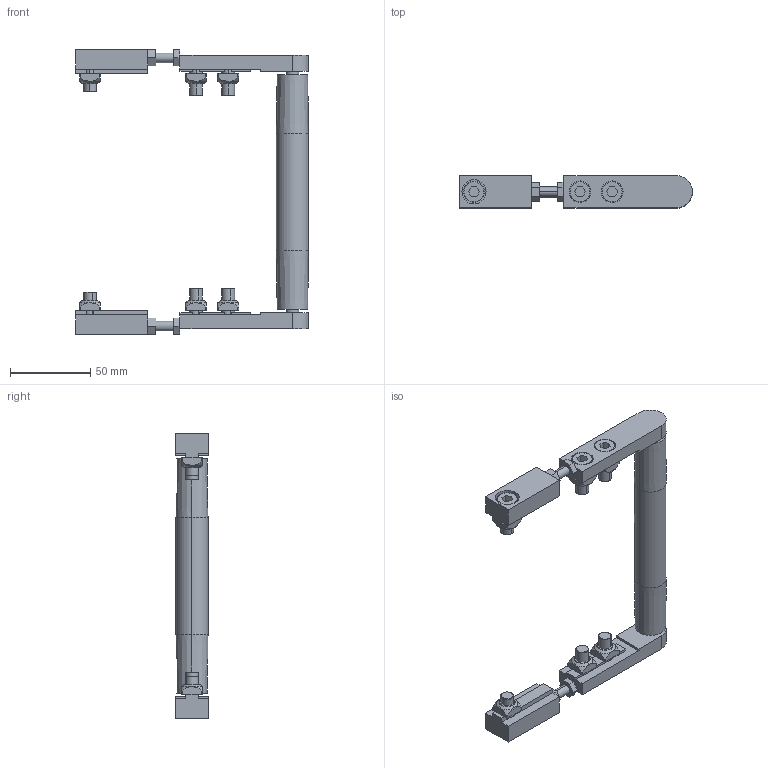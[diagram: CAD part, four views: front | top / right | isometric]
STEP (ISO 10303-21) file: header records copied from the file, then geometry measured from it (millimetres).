
FILE_DESCRIPTION (( 'STEP AP214' ), '1' );
FILE_NAME ('084.020.KI.126.STEP', '2021-02-05T13:54:11', ( '' ), ( '' ), 'SwSTEP 2.0', 'SolidWorks 2018', '' );
FILE_SCHEMA (( 'AUTOMOTIVE_DESIGN' ));
Length unit declared in the file: millimetre
Products named in the file (10): 084.301.000 VITI ALUSIC_084.301.003; 084.800.002; 084.800.012; 084.020.KI.126; 084.802.008; circlip for shafts normal_din_PreviewCfg; 084.800.007; 084.800.008; 084.800.045; 084.302.000 DADI ALUSIC 13x13-1_084.302.004
Assembly tree (27 placements, depth 2):
  084.020.KI.126
    084.802.008  x2
    084.301.000 VITI ALUSIC_084.301.003  x6
    084.302.000 DADI ALUSIC 13x13-1_084.302.004  x6
    084.800.045
    084.800.012  x4
    084.800.008  x2
    084.800.002  x2
    084.800.007  x2
    circlip for shafts normal_din_PreviewCfg  x2
Bounding box: 145 x 20 x 177 mm (x, y, z)
Volume: 87914.8 mm3; surface area: 58233.8 mm2
Topology: 31 solids, 31 shells, 654 faces, 1534 edges, 978 vertices
Faces by surface type: plane 250, cylinder 212, torus 112, cone 56, bspline 24
Entity records: 7297 total; most frequent: CARTESIAN_POINT 1531, DIRECTION 1185, ORIENTED_EDGE 1018, EDGE_CURVE 509, AXIS2_PLACEMENT_3D 471, VERTEX_POINT 327, EDGE_LOOP 250, LINE 243
